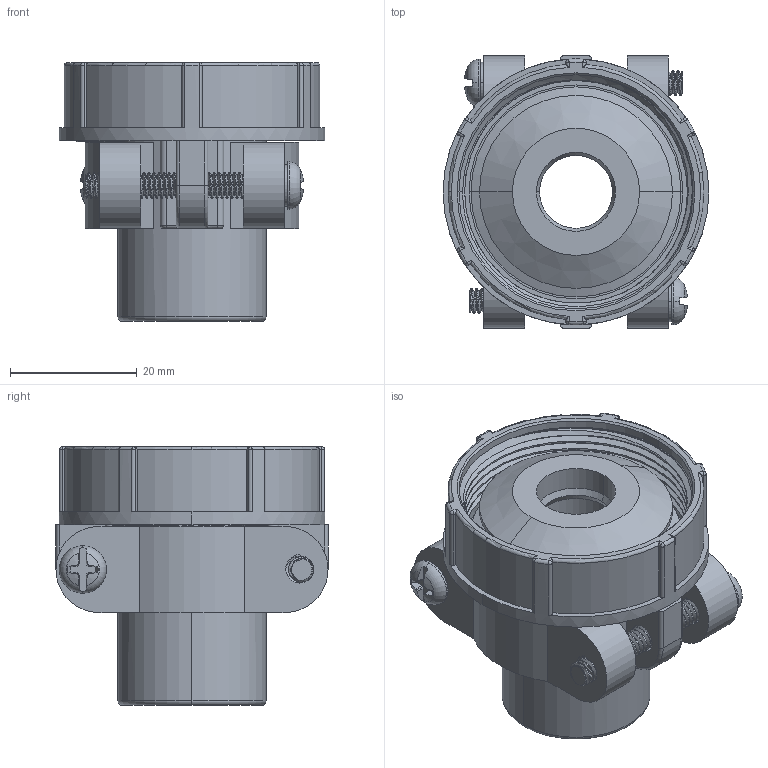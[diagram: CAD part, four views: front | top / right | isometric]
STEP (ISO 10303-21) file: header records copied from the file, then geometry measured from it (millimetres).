
FILE_DESCRIPTION (( 'STEP AP203' ), '1' );
FILE_NAME ('CE3057-16A-8-D.STEP', '2017-07-10T09:39:30', ( '' ), ( '' ), 'SwSTEP 2.0', 'SolidWorks 2015', '' );
FILE_SCHEMA (( 'CONFIG_CONTROL_DESIGN' ));
Length unit declared in the file: millimetre
Products named in the file (1): CE3057-16A-8-D
Bounding box: 42 x 43 x 40.86 mm (x, y, z)
Volume: 26400.8 mm3; surface area: 17925.9 mm2
Topology: 1 solids, 1 shells, 985 faces, 2771 edges, 1805 vertices
Faces by surface type: cylinder 480, plane 246, bspline 173, torus 37, cone 27, sphere 22
Entity records: 45777 total; most frequent: CARTESIAN_POINT 23405, ORIENTED_EDGE 5526, DIRECTION 3701, EDGE_CURVE 2763, VERTEX_POINT 1801, AXIS2_PLACEMENT_3D 1255, VECTOR 1191, LINE 1191
